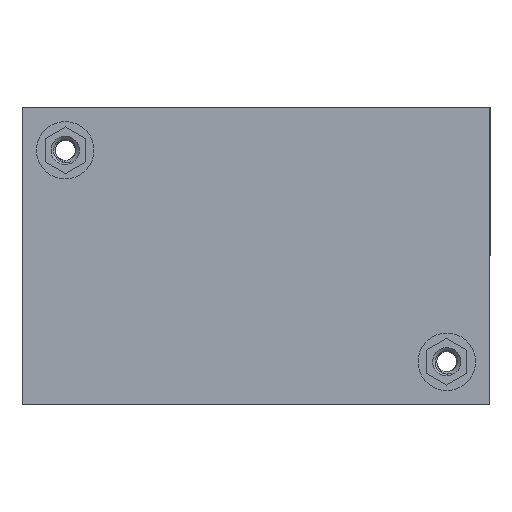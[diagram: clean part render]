
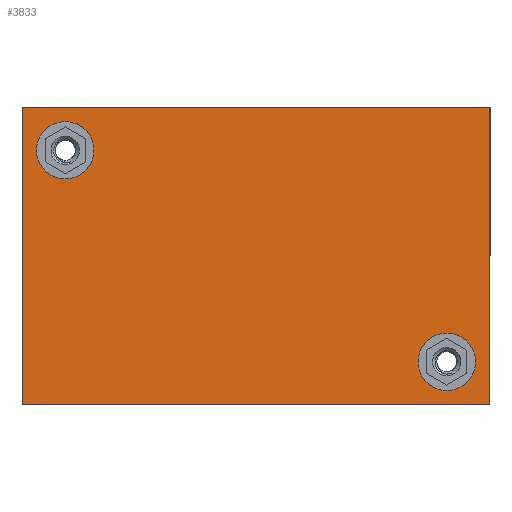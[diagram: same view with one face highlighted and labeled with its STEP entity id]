
A CAD part, front view. The second image highlights one B-rep face of the part: STEP entity #3833.
In plain terms, the highlighted planar face has unit normal (0, -1, 0) as drawn and (0, 1, 0) by its records, which use the part's own axes.
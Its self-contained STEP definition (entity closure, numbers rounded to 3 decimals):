
#14 = EDGE_CURVE ( 'NONE', #17065, #1369, #8711, .T. ) ;
#51 = ORIENTED_EDGE ( 'NONE', *, *, #8067, .T. ) ;
#561 = CARTESIAN_POINT ( 'NONE',  ( 28.95, 1.2, -18.4 ) ) ;
#1369 = VERTEX_POINT ( 'NONE', #561 ) ;
#1399 = CARTESIAN_POINT ( 'NONE',  ( 23.6, 1.2, 13.08 ) ) ;
#2066 = VECTOR ( 'NONE', #10325, 1000. ) ;
#2372 = EDGE_CURVE ( 'NONE', #22234, #22234, #5973, .T. ) ;
#2682 = DIRECTION ( 'NONE',  ( 0., 0., 1. ) ) ;
#3087 = ORIENTED_EDGE ( 'NONE', *, *, #14, .T. ) ;
#3833 = ADVANCED_FACE ( 'NONE', ( #10490, #6885, #5041 ), #15817, .T. ) ;
#4739 = CARTESIAN_POINT ( 'NONE',  ( 23.6, 1.2, 16.63 ) ) ;
#5041 = FACE_OUTER_BOUND ( 'NONE', #18982, .T. ) ;
#5117 = LINE ( 'NONE', #13046, #23057 ) ;
#5147 = CARTESIAN_POINT ( 'NONE',  ( -28.95, 1.2, -18.4 ) ) ;
#5609 = ORIENTED_EDGE ( 'NONE', *, *, #22753, .F. ) ;
#5620 = EDGE_CURVE ( 'NONE', #15115, #9809, #20962, .T. ) ;
#5840 = DIRECTION ( 'NONE',  ( 0., 0., 1. ) ) ;
#5973 = CIRCLE ( 'NONE', #19827, 3.55 ) ;
#6885 = FACE_BOUND ( 'NONE', #22007, .T. ) ;
#7041 = EDGE_CURVE ( 'NONE', #1369, #15115, #8968, .T. ) ;
#7473 = CARTESIAN_POINT ( 'NONE',  ( -23.6, 1.2, -9.53 ) ) ;
#7564 = CARTESIAN_POINT ( 'NONE',  ( -23.6, 1.2, -13.08 ) ) ;
#7567 = CARTESIAN_POINT ( 'NONE',  ( -28.95, 1.2, -18.4 ) ) ;
#8067 = EDGE_CURVE ( 'NONE', #9809, #17065, #5117, .T. ) ;
#8711 = LINE ( 'NONE', #19865, #22290 ) ;
#8968 = LINE ( 'NONE', #20118, #2066 ) ;
#9034 = AXIS2_PLACEMENT_3D ( 'NONE', #1399, #14552, #23964 ) ;
#9178 = VECTOR ( 'NONE', #5840, 1000. ) ;
#9321 = DIRECTION ( 'NONE',  ( 0., 0., 1. ) ) ;
#9809 = VERTEX_POINT ( 'NONE', #13385 ) ;
#9829 = CIRCLE ( 'NONE', #9034, 3.55 ) ;
#10325 = DIRECTION ( 'NONE',  ( -1., 0., 0. ) ) ;
#10490 = FACE_BOUND ( 'NONE', #11597, .T. ) ;
#10883 = CARTESIAN_POINT ( 'NONE',  ( 28.95, 1.2, 18.4 ) ) ;
#11597 = EDGE_LOOP ( 'NONE', ( #22357 ) ) ;
#11786 = ORIENTED_EDGE ( 'NONE', *, *, #5620, .T. ) ;
#13046 = CARTESIAN_POINT ( 'NONE',  ( -28.95, 1.2, 18.4 ) ) ;
#13385 = CARTESIAN_POINT ( 'NONE',  ( -28.95, 1.2, 18.4 ) ) ;
#14552 = DIRECTION ( 'NONE',  ( 0., 1., 0. ) ) ;
#15115 = VERTEX_POINT ( 'NONE', #5147 ) ;
#15142 = DIRECTION ( 'NONE',  ( 0., 1., 0. ) ) ;
#15151 = AXIS2_PLACEMENT_3D ( 'NONE', #21889, #18042, #2682 ) ;
#15817 = PLANE ( 'NONE',  #15151 ) ;
#17065 = VERTEX_POINT ( 'NONE', #10883 ) ;
#18042 = DIRECTION ( 'NONE',  ( 0., 1., 0. ) ) ;
#18237 = VERTEX_POINT ( 'NONE', #4739 ) ;
#18982 = EDGE_LOOP ( 'NONE', ( #11786, #51, #3087, #22737 ) ) ;
#19827 = AXIS2_PLACEMENT_3D ( 'NONE', #7564, #15142, #9321 ) ;
#19865 = CARTESIAN_POINT ( 'NONE',  ( 28.95, 1.2, -18.4 ) ) ;
#20118 = CARTESIAN_POINT ( 'NONE',  ( -28.95, 1.2, -18.4 ) ) ;
#20365 = DIRECTION ( 'NONE',  ( 0., 0., -1. ) ) ;
#20962 = LINE ( 'NONE', #7567, #9178 ) ;
#21889 = CARTESIAN_POINT ( 'NONE',  ( -28.95, 1.2, 18.4 ) ) ;
#22007 = EDGE_LOOP ( 'NONE', ( #5609 ) ) ;
#22234 = VERTEX_POINT ( 'NONE', #7473 ) ;
#22290 = VECTOR ( 'NONE', #20365, 1000. ) ;
#22357 = ORIENTED_EDGE ( 'NONE', *, *, #2372, .F. ) ;
#22737 = ORIENTED_EDGE ( 'NONE', *, *, #7041, .T. ) ;
#22753 = EDGE_CURVE ( 'NONE', #18237, #18237, #9829, .T. ) ;
#23057 = VECTOR ( 'NONE', #24196, 1000. ) ;
#23964 = DIRECTION ( 'NONE',  ( 0., 0., 1. ) ) ;
#24196 = DIRECTION ( 'NONE',  ( 1., 0., 0. ) ) ;
